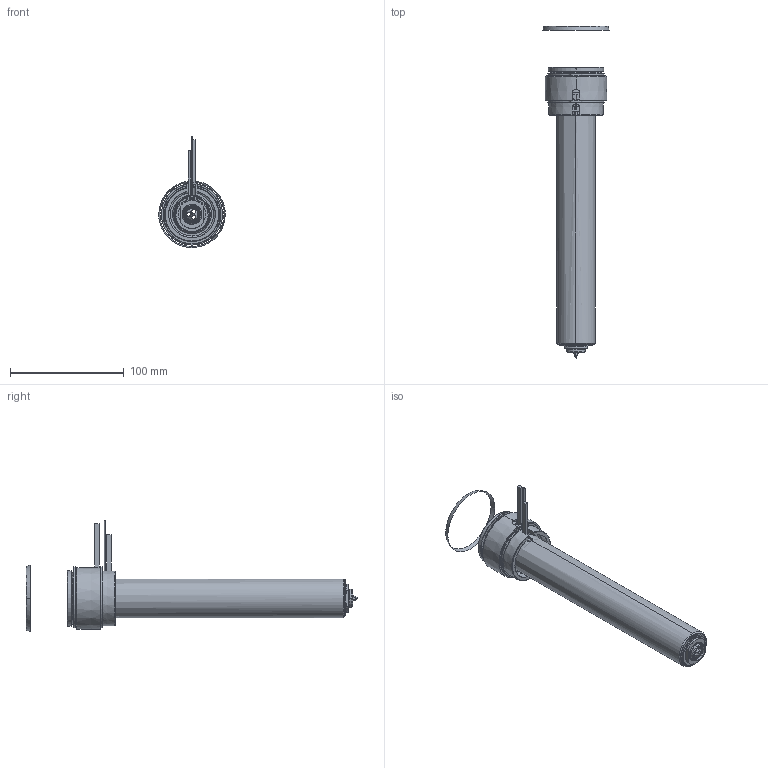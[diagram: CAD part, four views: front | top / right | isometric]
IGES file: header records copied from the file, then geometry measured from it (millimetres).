
Start section: SolidWorks IGES file using analytic representation for surfaces
Global section: file name: C:\Documents and Settings\ws-20\Desktop\TEM\UGEP5505-S-A-1 [Øf-0.80 ØC-13].IGS; native system: SolidWorks 2012; preprocessor: SolidWorks 2012; author: ws-20; date: 120427.082214; units: millimetre
Bounding box: 58.57 x 292.24 x 97.91 mm (x, y, z)
Surface area: 106818.2 mm2 (no closed solid volume)
Topology: 0 solids, 0 shells, 176 faces, 3586 edges, 3586 vertices
Faces by surface type: revolution 114, bspline 62
